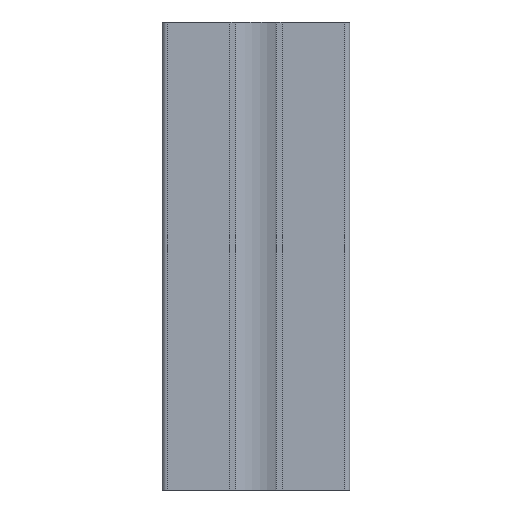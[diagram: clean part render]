
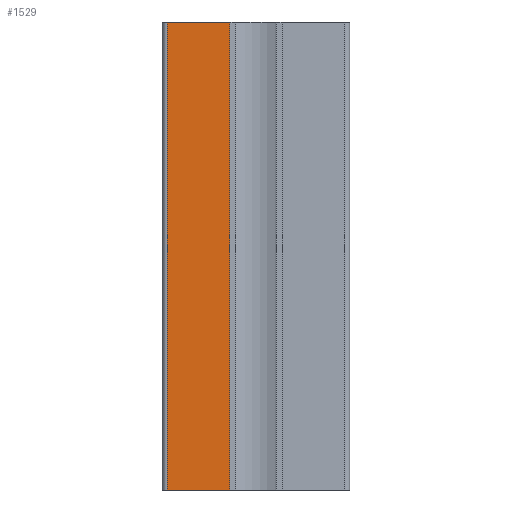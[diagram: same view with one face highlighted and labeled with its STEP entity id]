
A CAD part, left-side view. The second image highlights one B-rep face of the part: STEP entity #1529.
In plain terms, the highlighted planar face has unit normal (-1, 0, 0).
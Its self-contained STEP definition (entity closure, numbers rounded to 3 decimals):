
#37=PLANE('',#1633);
#107=FACE_OUTER_BOUND('',#189,.T.);
#189=EDGE_LOOP('',(#1113,#1114,#1115,#1116));
#289=LINE('',#2249,#473);
#290=LINE('',#2251,#474);
#291=LINE('',#2253,#475);
#292=LINE('',#2254,#476);
#473=VECTOR('',#1831,10.);
#474=VECTOR('',#1832,10.);
#475=VECTOR('',#1833,10.);
#476=VECTOR('',#1834,10.);
#705=VERTEX_POINT('',#2247);
#706=VERTEX_POINT('',#2248);
#707=VERTEX_POINT('',#2250);
#708=VERTEX_POINT('',#2252);
#873=EDGE_CURVE('',#705,#706,#289,.T.);
#874=EDGE_CURVE('',#705,#707,#290,.T.);
#875=EDGE_CURVE('',#708,#707,#291,.T.);
#876=EDGE_CURVE('',#706,#708,#292,.T.);
#1113=ORIENTED_EDGE('',*,*,#873,.F.);
#1114=ORIENTED_EDGE('',*,*,#874,.T.);
#1115=ORIENTED_EDGE('',*,*,#875,.F.);
#1116=ORIENTED_EDGE('',*,*,#876,.F.);
#1529=ADVANCED_FACE('',(#107),#37,.T.);
#1633=AXIS2_PLACEMENT_3D('',#2246,#1829,#1830);
#1829=DIRECTION('center_axis',(-1.,0.,0.));
#1830=DIRECTION('ref_axis',(0.,-1.,0.));
#1831=DIRECTION('',(0.,1.,0.));
#1832=DIRECTION('',(0.,0.,1.));
#1833=DIRECTION('',(0.,-1.,0.));
#1834=DIRECTION('',(0.,0.,1.));
#2246=CARTESIAN_POINT('Origin',(3.089,41.445,0.));
#2247=CARTESIAN_POINT('',(3.089,28.045,0.));
#2248=CARTESIAN_POINT('',(3.089,41.445,0.));
#2249=CARTESIAN_POINT('',(3.089,28.045,0.));
#2250=CARTESIAN_POINT('',(3.089,28.045,100.));
#2251=CARTESIAN_POINT('',(3.089,28.045,0.));
#2252=CARTESIAN_POINT('',(3.089,41.445,100.));
#2253=CARTESIAN_POINT('',(3.089,28.045,100.));
#2254=CARTESIAN_POINT('',(3.089,41.445,0.));
